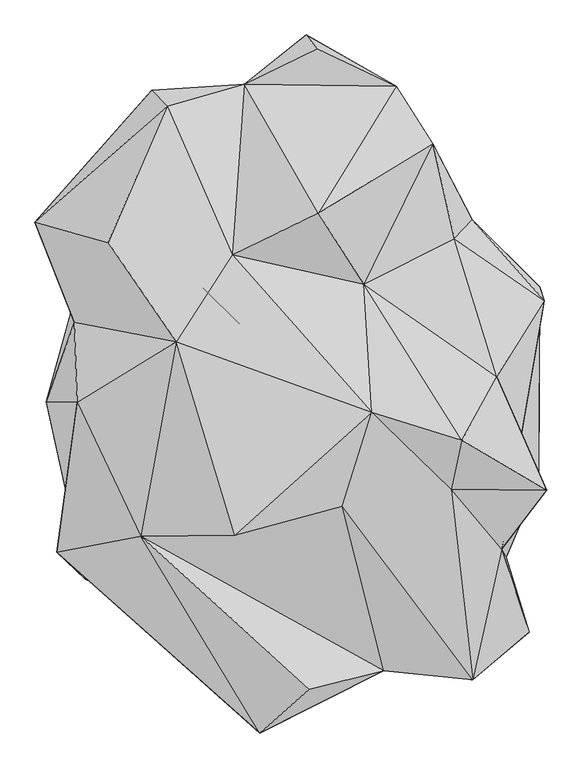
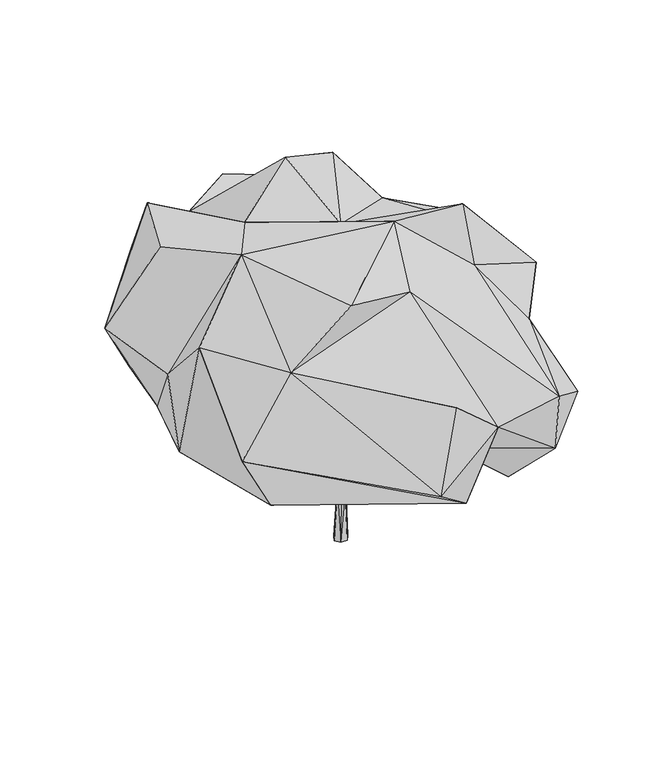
"""IFC4 building model written with IfcOpenShell, lengths in millimetres: geographic element geometry, Enscape AssetDefinition - Evergreen Tree 022 Ficus : Enscape AssetDefinition - Evergreen Tree 022 Ficus 3."""

from ifc_helpers import new_model, si_unit, origin, place, context, project, spatial, triangles, source, transform, mapped, element, save


def geographic_element_a466647c(model_context):
    return source(origin(), model_context, "Body", "Tessellation", [
        triangles([(41.8413732, -22.6909592, 133.8318656), (78.8034112, -46.2661485, 221.5610219), (213.1566839, -220.176895, 489.6675313), (82.302371, -36.2489184, 221.2287748), (32.9036965, -8.592023, 142.943873), (31.5646885, -14.1461501, 140.0751436), (35.7617843, -19.5766848, 136.1702312), (208.8278239, -214.6972331, 495.1955732), (84.7774288, -48.2894126, 215.9283534), (50.1545604, -12.7989485, 132.5722495), (41.4517803, -2.0892903, 140.5195751), (217.8694232, -210.5304452, 493.5233643), (219.8239187, -215.3127296, 489.5685184), (90.6450213, -42.2335549, 216.9235688), (-17.6015442, 15.5413138, 246.1249296), (43.5986288, -12.3299716, 152.5117846), (34.6249328, -16.4083996, 157.2441629), (1.4605876, -90.1835396, 242.2535634), (-27.9052507, 13.5868058, 251.9958285), (-24.7696954, 22.0972431, 252.879768), (-69.2862005, 53.0140606, 297.7833861), (-106.5273367, 73.6116224, 336.816178), (-72.0427955, 51.9639703, 288.6722235), (-39.2541265, 19.5166117, 247.9018378), (-30.2878111, 23.5950442, 240.0977539), (35.1176557, -8.7581727, 144.7076734), (33.0395622, -15.3190175, 143.5159947), (-69.9450629, 43.8611309, 296.9338559), (-78.1600366, 46.9156501, 294.0888624), (-108.7814052, 65.5415209, 338.4727266), (-103.1822556, 64.9579582, 343.8337366), (-170.8737089, 129.261723, 444.78288), (-163.005748, 133.6855355, 449.1191342), (-166.7903462, 137.3817488, 443.6893785), (-99.5474394, 71.6268326, 341.4159699), (39.0152012, -20.1569841, 148.9825396), (25.9172498, -62.7149038, 206.0109537), (16.0219622, -65.171131, 201.4005156), (22.6761118, -67.3531699, 202.0659546), (19.5037355, -57.2769999, 206.5708032), (61.8619444, -211.4225056, 509.5391018), (16.0915335, -89.7563128, 247.2110188), (12.3969711, -84.0990364, 246.9974054), (62.7859841, -219.5949537, 507.8317932), (53.6453266, -212.5102844, 507.5968875), (4.8163093, -89.9240896, 255.3506746), (-128.3182486, -230.2219032, 395.8554886), (55.222515, -220.6057569, 505.9100718), (-132.668401, -228.3287956, 393.5056684), (5.1944413, -100.4700665, 248.7636675), (-132.6324021, -232.8090999, 390.3513187), (8.7392286, -97.9958262, 253.9404772), (43.7983304, -5.7404762, 133.0919761), (231.6033414, -9.7494265, 473.9162398), (236.8562366, -18.1927463, 471.1252401), (38.2008251, -20.7217253, 138.1132721), (47.6418594, -16.7881627, 132.4020201), (33.4127861, -6.1726292, 138.547884), (32.1801692, -15.0652902, 140.2429477), (228.3425484, -17.6067253, 475.971347), (-30.3344561, 124.8944115, 330.2791134), (34.8393751, 65.1928912, 200.1974277), (-18.9340119, 125.6113826, 334.5105775), (25.6291474, 70.8706151, 208.2740604), (33.8572107, -17.2268668, 144.9507636), (44.7575787, -16.4157642, 145.4745779), (31.2381119, -9.451412, 133.8195843), (30.5735154, -12.6033379, 139.4318508), (13.559198, 89.0921727, 223.1963872), (27.3602077, 84.7616504, 206.9244335), (-30.2092366, 127.7369433, 344.1005808), (-24.559343, 145.573836, 353.9549575), (-24.553618, 129.7168097, 327.4749968), (39.5537539, 249.3261513, 491.3979853), (-18.2792395, 133.6986797, 343.1020226), (-18.7793168, 140.0712649, 362.4956426), (36.2103079, 244.0936764, 496.2449278), (31.5769584, 248.387346, 494.3469332), (48.8351869, -10.2698821, 137.7482508), (41.4034911, -6.2356494, 130.8968431), (59.5571251, -13.3800256, -3.6e-06), (42.2890702, 0.5093452, 148.3965289), (49.0201592, -29.6511811, -8e-06), (45.18154, 4.1900377, 1.1e-06), (54.5669273, -11.6072641, 150.2904631), (28.8162712, 2.3157448, 6e-07), (35.8264492, -2.2431651, 150.3796836), (30.2371328, -12.8701605, 150.3092755), (20.4343268, -13.3800256, -3.6e-06), (46.9338903, -22.7916344, 149.3762202), (38.8523251, -23.4971554, 150.5605411), (30.9745651, -29.4007308, -7.9e-06), (-283.1291026, -323.3637288, 804.1877592), (-107.9743959, -321.650752, 944.326807), (-400.9665138, -73.7611136, 769.4374094), (30.4548407, -607.4320727, 759.0607172), (-61.3920603, -689.0169548, 571.1844669), (57.1565494, -607.3976272, 460.1166824), (-438.6578178, -353.1976636, 605.6895192), (-114.5589595, -266.2901231, 335.1414983), (117.1404789, -427.6111811, 498.9874566), (-311.6674587, -194.6128122, 427.8231957), (-386.2815454, -402.8525179, 485.65048), (-406.0393873, 74.1664804, 600.9833748), (-458.6276381, -73.3607929, 473.4946813), (-401.0851476, 135.986249, 464.2403406), (-75.0809595, -144.3564049, 502.6730965), (341.5326416, -373.6993555, 371.7818853), (324.470856, -588.4549244, 521.7808691), (239.864138, -500.2894847, 412.4588719), (257.831973, 244.3653713, 500.2693551), (289.8905721, -133.2039424, 469.5397991), (65.216845, -27.5101985, 473.8351401), (457.0193788, -220.9396754, 450.4571703), (396.5444, -361.9094501, 568.9893611), (438.8387661, -501.3878915, 602.3599259), (333.9953836, -590.4381609, 677.422459), (168.8644383, -573.0685452, 630.9187569), (91.9152744, -267.8486581, 884.7905428), (294.1482701, -236.0716551, 876.8481497), (146.9663019, -92.5810314, 972.7768873), (471.7780346, -237.905791, 823.4880346), (-216.3985464, 38.2691803, 919.3227373), (313.4804295, -145.005584, 1000.0000803), (131.2443327, 145.140732, 826.8610119), (300.034684, 230.0764905, 794.701129), (387.9586959, -347.3260016, 746.5390251), (378.9055784, -27.0666868, 857.3899624), (467.1438698, 114.5725942, 764.2424503), (333.1180026, 265.4408835, 652.7745449), (458.493453, 140.5344634, 529.1153778), (259.953446, 406.7289891, 839.7135704), (192.1449396, 513.6094929, 728.9953285), (47.3103799, 276.6301533, 978.9318895), (45.2191921, 583.0689159, 743.4510595), (24.6388009, 608.5446502, 385.565964), (-49.6364143, 322.1273217, 374.3618514), (-90.0818562, 517.2787093, 715.5405539), (-233.9628994, 475.7447983, 817.7811155), (-112.7616219, 200.1778068, 882.9131138), (-479.5673484, 260.4777054, 654.1102919), (-160.6412121, 258.2670845, 467.9332111), (-262.5298875, 505.5813128, 673.0922001), (-161.834544, 410.4932216, 423.605866), (-385.4450775, 302.6640657, 478.4211611), (-342.9247805, 222.6758885, 876.3465815), (182.179287, 494.9117606, 422.5582191)], [[101, 109, 118], [101, 110, 109], [113, 147, 111], [123, 146, 104], [106, 104, 141], [146, 141, 104], [141, 145, 106], [145, 142, 106], [106, 142, 113], [137, 113, 142], [137, 147, 113], [142, 144, 137], [144, 142, 143], [145, 141, 143], [145, 143, 142], [139, 143, 141], [139, 141, 146], [140, 146, 123], [139, 146, 140], [139, 138, 143], [143, 138, 144], [138, 139, 140], [147, 137, 136], [138, 135, 136], [136, 137, 144], [136, 144, 138], [138, 133, 135], [136, 135, 133], [133, 147, 136], [133, 138, 134], [138, 140, 134], [134, 132, 133], [133, 132, 147], [130, 111, 147], [130, 131, 111], [147, 132, 130], [129, 131, 130], [129, 127, 131], [129, 130, 126], [132, 126, 130], [132, 134, 125], [125, 134, 140], [132, 125, 126], [126, 128, 129], [127, 129, 128], [128, 126, 125], [128, 122, 127], [124, 122, 128], [128, 125, 124], [140, 123, 121], [121, 124, 125], [121, 125, 140], [123, 94, 121], [122, 120, 127], [120, 124, 121], [122, 124, 120], [119, 120, 121], [119, 121, 94], [117, 120, 119], [118, 109, 117], [127, 120, 117], [119, 118, 117], [116, 117, 109], [127, 117, 116], [115, 127, 116], [116, 109, 115], [114, 127, 115], [114, 131, 127], [111, 112, 113], [112, 111, 131], [112, 131, 114], [110, 108, 109], [110, 101, 108], [115, 108, 114], [115, 109, 108], [114, 108, 112], [107, 113, 112], [112, 108, 107], [107, 108, 101], [101, 100, 107], [113, 107, 102], [107, 100, 102], [106, 113, 102], [105, 104, 106], [105, 106, 102], [105, 95, 104], [95, 123, 104], [103, 99, 95], [102, 103, 105], [105, 103, 95], [100, 103, 102], [98, 99, 103], [98, 101, 118], [100, 101, 98], [98, 103, 100], [99, 98, 97], [97, 98, 118], [118, 96, 97], [96, 118, 93], [95, 99, 93], [95, 93, 123], [94, 123, 93], [93, 119, 94], [96, 93, 97], [119, 93, 118], [93, 99, 97], [90, 91, 92], [90, 92, 83], [88, 89, 92], [88, 92, 91], [88, 87, 86], [88, 86, 89], [82, 84, 86], [82, 86, 87], [81, 85, 90], [81, 84, 82], [81, 90, 83], [81, 82, 85], [70, 80, 67], [70, 79, 80], [62, 66, 79], [62, 79, 70], [70, 63, 62], [78, 71, 76], [76, 77, 78], [63, 76, 71], [76, 63, 75], [76, 75, 74], [76, 74, 77], [71, 78, 72], [74, 72, 78], [74, 73, 72], [73, 75, 63], [74, 75, 73], [70, 73, 63], [73, 61, 72], [71, 72, 61], [73, 70, 69], [61, 73, 69], [70, 67, 69], [69, 67, 68], [69, 64, 61], [64, 65, 66], [66, 62, 64], [64, 62, 63], [71, 64, 63], [64, 69, 68], [71, 61, 64], [64, 68, 65], [58, 59, 60], [59, 56, 60], [58, 60, 54], [58, 54, 53], [55, 57, 53], [56, 55, 60], [57, 55, 56], [55, 53, 54], [52, 44, 48], [47, 50, 52], [50, 51, 18], [47, 51, 50], [18, 51, 49], [48, 45, 46], [46, 49, 47], [47, 52, 46], [46, 52, 48], [18, 49, 46], [45, 41, 46], [41, 43, 46], [40, 46, 43], [46, 40, 18], [44, 52, 42], [40, 43, 42], [42, 43, 41], [42, 41, 44], [52, 50, 42], [40, 42, 37], [37, 16, 40], [37, 42, 39], [39, 42, 50], [50, 18, 38], [39, 50, 38], [39, 38, 36], [37, 39, 36], [37, 36, 16], [26, 16, 27], [38, 27, 36], [36, 27, 16], [22, 34, 35], [33, 35, 34], [22, 32, 34], [31, 33, 32], [33, 31, 35], [31, 28, 35], [22, 30, 32], [30, 31, 32], [28, 31, 30], [22, 29, 30], [28, 30, 29], [28, 29, 24], [25, 26, 27], [16, 26, 25], [27, 24, 25], [22, 23, 29], [23, 25, 24], [24, 29, 23], [21, 23, 22], [28, 21, 35], [21, 22, 35], [21, 20, 23], [20, 16, 25], [23, 20, 25], [28, 20, 21], [19, 28, 24], [19, 20, 28], [15, 16, 20], [19, 15, 20], [17, 18, 40], [15, 19, 17], [40, 16, 17], [27, 38, 17], [17, 19, 24], [15, 17, 16], [18, 17, 38], [17, 24, 27], [13, 3, 9], [4, 8, 12], [11, 5, 4], [14, 13, 9], [12, 13, 14], [4, 12, 14], [14, 11, 4], [14, 10, 11], [9, 10, 14], [9, 1, 10], [2, 3, 8], [2, 6, 7], [5, 6, 2], [4, 5, 2], [2, 7, 1], [9, 3, 2], [2, 8, 4], [2, 1, 9]], closed=False),
    ])


if __name__ == "__main__":
    model = new_model("IFC4")
    model_context = context("Model", 3, world=origin())
    ifc_project = project(units=[si_unit("LENGTHUNIT", "METRE", prefix="MILLI")], contexts=[model_context])
    site = spatial("IfcSite", under=ifc_project)
    building = spatial("IfcBuilding", under=site)
    placement = place(None, origin())
    geographic_element_shape = geographic_element_a466647c(model_context)
    element("IfcGeographicElement", 1, ObjectType="Enscape AssetDefinition - Evergreen Tree 022 Ficus : Enscape AssetDefinition - Evergreen Tree 022 Ficus 3", at=placement, inside=building, context=model_context, shape_type="MappedRepresentation", body=[
        mapped(geographic_element_shape, transform((0.0, 0.0, 0.0), x_axis=(1.0, 0.0, 0.0), y_axis=(0.0, 1.0, 0.0), z_axis=(0.0, 0.0, 1.0))),
    ])
    save(model, "model.ifc")
